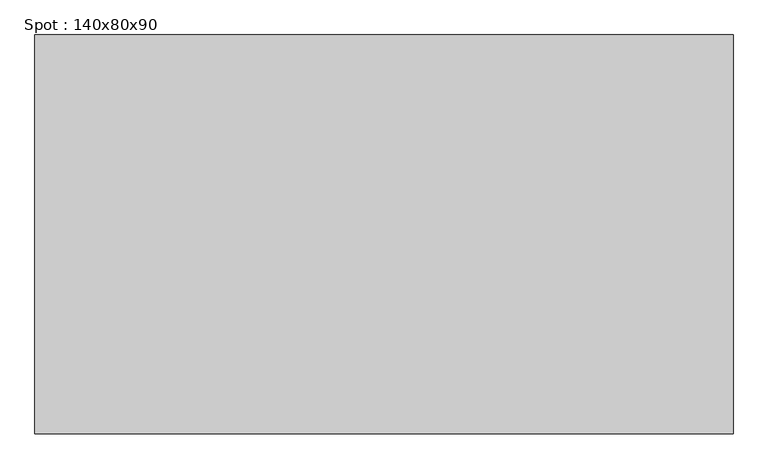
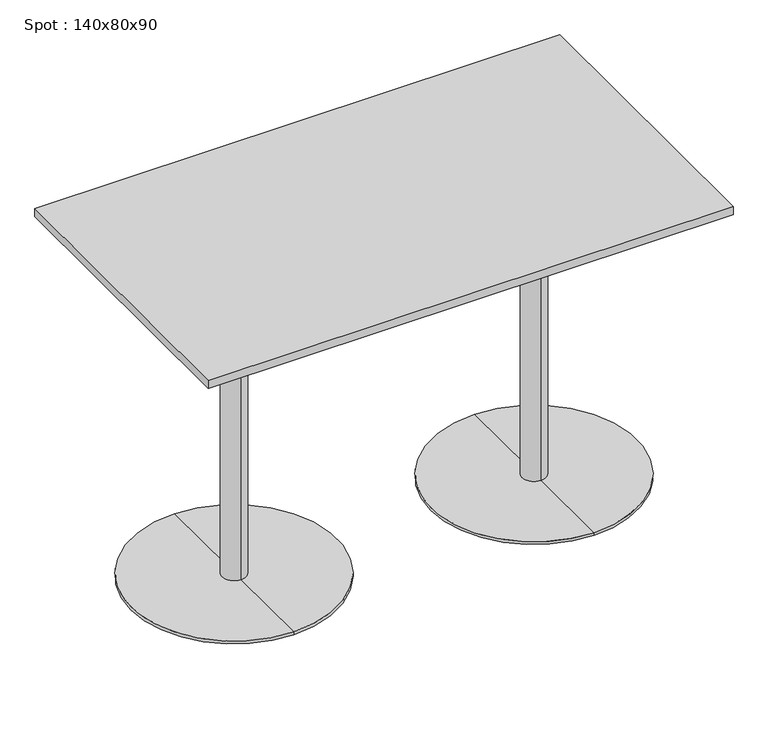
"""IFC4 building model written with IfcOpenShell, lengths in millimetres: furniture geometry, Spot : 140x80x90."""

from ifc_helpers import new_model, si_unit, frame, origin, place, context, project, spatial, polyline, circle_curve, outline, extrude, source, transform, mapped, element, save
from ifc_brep_helpers import plane_surface, cylinder_surface, revolved_surface, advanced_brep


def spot_140x80x90_5b85041d(model_context):
    return source(origin(), model_context, "Body", "SolidModel", [
        extrude(outline(polyline([(700.0, 400.0), (700.0, -400.0), (-700.0, -400.0), (-700.0, 400.0), (700.0, 400.0)])), frame((0.0, 0.0, 878.0), z_axis=(0.0, 0.0, 1.0), x_axis=(1.0, 0.0, 0.0)), (0.0, 0.0, 1.0), 22.0),
        advanced_brep(
        [(-400.0, 32.0, 10.0), (-400.0, -32.0, 10.0), (-400.0, -32.0, 847.406916), (-400.0, 32.0, 847.406916), (-400.0, 275.0, 10.0), (-400.0, -275.0, 10.0), (-400.0, 275.0, 2.0), (-400.0, -275.0, 2.0), (-400.0, 0.0, 2.0), (-400.0, 150.0, 878.0), (-400.0, -150.0, 878.0), (-400.0, 0.0, 878.0), (-400.0, 150.0, 866.7213673), (-400.0, -150.0, 866.7213673)],
        [
            (0, 1, circle_curve(frame((-400.0, 0.0, 10.0), z_axis=(0.0, 0.0, 1.0), x_axis=(0.0, -1.0, 0.0)), 32.0)),
            (1, 2),
            (2, 3, circle_curve(frame((-400.0, 0.0, 847.406916), z_axis=(0.0, 0.0, -1.0), x_axis=(0.0, -1.0, 0.0)), 32.0)),
            (3, 0),
            (1, 0, circle_curve(frame((-400.0, 0.0, 10.0), z_axis=(0.0, 0.0, 1.0), x_axis=(0.0, -1.0, 0.0)), 32.0)),
            (3, 2, circle_curve(frame((-400.0, 0.0, 847.406916), z_axis=(0.0, 0.0, -1.0), x_axis=(0.0, -1.0, 0.0)), 32.0)),
            (4, 5, circle_curve(frame((-400.0, 0.0, 10.0), z_axis=(0.0, 0.0, 1.0), x_axis=(0.0, -1.0, 0.0)), 275.0)),
            (5, 1),
            (0, 4),
            (5, 4, circle_curve(frame((-400.0, 0.0, 10.0), z_axis=(0.0, 0.0, 1.0), x_axis=(0.0, -1.0, 0.0)), 275.0)),
            (6, 7, circle_curve(frame((-400.0, 0.0, 2.0), z_axis=(0.0, 0.0, 1.0), x_axis=(0.0, -1.0, 0.0)), 275.0)),
            (7, 5),
            (4, 6),
            (7, 6, circle_curve(frame((-400.0, 0.0, 2.0), z_axis=(0.0, 0.0, 1.0), x_axis=(0.0, -1.0, 0.0)), 275.0)),
            (8, 7),
            (6, 8),
            (9, 10, circle_curve(frame((-400.0, 0.0, 878.0), z_axis=(0.0, 0.0, 1.0), x_axis=(0.0, -1.0, 0.0)), 150.0)),
            (10, 11),
            (11, 9),
            (10, 9, circle_curve(frame((-400.0, 0.0, 878.0), z_axis=(0.0, 0.0, 1.0), x_axis=(0.0, -1.0, 0.0)), 150.0)),
            (12, 13, circle_curve(frame((-400.0, 0.0, 866.7213673), z_axis=(0.0, 0.0, 1.0), x_axis=(0.0, -1.0, 0.0)), 150.0)),
            (13, 10),
            (9, 12),
            (13, 12, circle_curve(frame((-400.0, 0.0, 866.7213673), z_axis=(0.0, 0.0, 1.0), x_axis=(0.0, -1.0, 0.0)), 150.0)),
            (2, 13),
            (12, 3),
        ],
        [
            cylinder_surface(frame((-400.0, 0.0, 1240.0), z_axis=(0.0, 0.0, -1.0), x_axis=(0.0, -1.0, 0.0)), 32.0),
            plane_surface(frame((-400.0, 0.0, 10.0), z_axis=(0.0, 0.0, 1.0), x_axis=(0.0, -1.0, 0.0))),
            cylinder_surface(frame((-400.0, 0.0, 1240.0), z_axis=(0.0, 0.0, -1.0), x_axis=(0.0, -1.0, 0.0)), 275.0),
            plane_surface(frame((-400.0, 0.0, 2.0), z_axis=(0.0, 0.0, -1.0), x_axis=(0.0, -1.0, 0.0))),
            plane_surface(frame((-400.0, 0.0, 878.0), z_axis=(0.0, 0.0, 1.0), x_axis=(0.0, -1.0, 0.0))),
            cylinder_surface(frame((-400.0, 0.0, 1240.0), z_axis=(0.0, 0.0, -1.0), x_axis=(0.0, -1.0, 0.0)), 150.0),
            revolved_surface(polyline([(-400.0, -150.0, 866.7213673), (-400.0, -32.0, 847.406916)]), (-400.0, 0.0, 1240.0), (0.0, 0.0, -1.0)),
        ],
        [
            (0, [[1, 2, 3, 4]]),
            (0, [[5, -4, 6, -2]]),
            (1, [[7, 8, -1, 9]]),
            (1, [[10, -9, -5, -8]]),
            (2, [[11, 12, -7, 13]]),
            (2, [[14, -13, -10, -12]]),
            (3, [[15, -11, 16]]),
            (3, [[-16, -14, -15]]),
            (4, [[17, 18, 19]]),
            (4, [[20, -19, -18]]),
            (5, [[21, 22, -17, 23]]),
            (5, [[24, -23, -20, -22]]),
            (6, [[-3, 25, -21, 26]]),
            (6, [[-6, -26, -24, -25]]),
        ],
    ),
        advanced_brep(
        [(400.0, 32.0, 10.0), (400.0, -32.0, 10.0), (400.0, -32.0, 847.406916), (400.0, 32.0, 847.406916), (400.0, 275.0, 10.0), (400.0, -275.0, 10.0), (400.0, 275.0, 2.0), (400.0, -275.0, 2.0), (400.0, 0.0, 2.0), (400.0, 150.0, 878.0), (400.0, -150.0, 878.0), (400.0, 0.0, 878.0), (400.0, 150.0, 866.7213673), (400.0, -150.0, 866.7213673)],
        [
            (0, 1, circle_curve(frame((400.0, 0.0, 10.0), z_axis=(0.0, 0.0, 1.0), x_axis=(0.0, -1.0, 0.0)), 32.0)),
            (1, 2),
            (2, 3, circle_curve(frame((400.0, 0.0, 847.406916), z_axis=(0.0, 0.0, -1.0), x_axis=(0.0, -1.0, 0.0)), 32.0)),
            (3, 0),
            (1, 0, circle_curve(frame((400.0, 0.0, 10.0), z_axis=(0.0, 0.0, 1.0), x_axis=(0.0, -1.0, 0.0)), 32.0)),
            (3, 2, circle_curve(frame((400.0, 0.0, 847.406916), z_axis=(0.0, 0.0, -1.0), x_axis=(0.0, -1.0, 0.0)), 32.0)),
            (4, 5, circle_curve(frame((400.0, 0.0, 10.0), z_axis=(0.0, 0.0, 1.0), x_axis=(0.0, -1.0, 0.0)), 275.0)),
            (5, 1),
            (0, 4),
            (5, 4, circle_curve(frame((400.0, 0.0, 10.0), z_axis=(0.0, 0.0, 1.0), x_axis=(0.0, -1.0, 0.0)), 275.0)),
            (6, 7, circle_curve(frame((400.0, 0.0, 2.0), z_axis=(0.0, 0.0, 1.0), x_axis=(0.0, -1.0, 0.0)), 275.0)),
            (7, 5),
            (4, 6),
            (7, 6, circle_curve(frame((400.0, 0.0, 2.0), z_axis=(0.0, 0.0, 1.0), x_axis=(0.0, -1.0, 0.0)), 275.0)),
            (8, 7),
            (6, 8),
            (9, 10, circle_curve(frame((400.0, 0.0, 878.0), z_axis=(0.0, 0.0, 1.0), x_axis=(0.0, -1.0, 0.0)), 150.0)),
            (10, 11),
            (11, 9),
            (10, 9, circle_curve(frame((400.0, 0.0, 878.0), z_axis=(0.0, 0.0, 1.0), x_axis=(0.0, -1.0, 0.0)), 150.0)),
            (12, 13, circle_curve(frame((400.0, 0.0, 866.7213673), z_axis=(0.0, 0.0, 1.0), x_axis=(0.0, -1.0, 0.0)), 150.0)),
            (13, 10),
            (9, 12),
            (13, 12, circle_curve(frame((400.0, 0.0, 866.7213673), z_axis=(0.0, 0.0, 1.0), x_axis=(0.0, -1.0, 0.0)), 150.0)),
            (2, 13),
            (12, 3),
        ],
        [
            cylinder_surface(frame((400.0, 0.0, 1240.0), z_axis=(0.0, 0.0, -1.0), x_axis=(0.0, -1.0, 0.0)), 32.0),
            plane_surface(frame((400.0, 0.0, 10.0), z_axis=(0.0, 0.0, 1.0), x_axis=(0.0, -1.0, 0.0))),
            cylinder_surface(frame((400.0, 0.0, 1240.0), z_axis=(0.0, 0.0, -1.0), x_axis=(0.0, -1.0, 0.0)), 275.0),
            plane_surface(frame((400.0, 0.0, 2.0), z_axis=(0.0, 0.0, -1.0), x_axis=(0.0, -1.0, 0.0))),
            plane_surface(frame((400.0, 0.0, 878.0), z_axis=(0.0, 0.0, 1.0), x_axis=(0.0, -1.0, 0.0))),
            cylinder_surface(frame((400.0, 0.0, 1240.0), z_axis=(0.0, 0.0, -1.0), x_axis=(0.0, -1.0, 0.0)), 150.0),
            revolved_surface(polyline([(400.0, -150.0, 866.7213673), (400.0, -32.0, 847.406916)]), (400.0, 0.0, 1240.0), (0.0, 0.0, -1.0)),
        ],
        [
            (0, [[1, 2, 3, 4]]),
            (0, [[5, -4, 6, -2]]),
            (1, [[7, 8, -1, 9]]),
            (1, [[10, -9, -5, -8]]),
            (2, [[11, 12, -7, 13]]),
            (2, [[14, -13, -10, -12]]),
            (3, [[15, -11, 16]]),
            (3, [[-16, -14, -15]]),
            (4, [[17, 18, 19]]),
            (4, [[20, -19, -18]]),
            (5, [[21, 22, -17, 23]]),
            (5, [[24, -23, -20, -22]]),
            (6, [[-3, 25, -21, 26]]),
            (6, [[-6, -26, -24, -25]]),
        ],
    ),
    ])


if __name__ == "__main__":
    model = new_model("IFC4")
    model_context = context("Model", 3, world=origin())
    ifc_project = project(units=[si_unit("LENGTHUNIT", "METRE", prefix="MILLI")], contexts=[model_context])
    site = spatial("IfcSite", under=ifc_project)
    building = spatial("IfcBuilding", under=site)
    placement = place(None, origin())
    spot_140x80x90_shape = spot_140x80x90_5b85041d(model_context)
    element("IfcFurniture", 1, ObjectType="Spot : 140x80x90", at=placement, inside=building, context=model_context, shape_type="MappedRepresentation", body=[
        mapped(spot_140x80x90_shape, transform((0.0, 0.0, 0.0), x_axis=(1.0, 0.0, 0.0), y_axis=(0.0, 1.0, 0.0), z_axis=(0.0, 0.0, 1.0))),
    ])
    save(model, "model.ifc")
